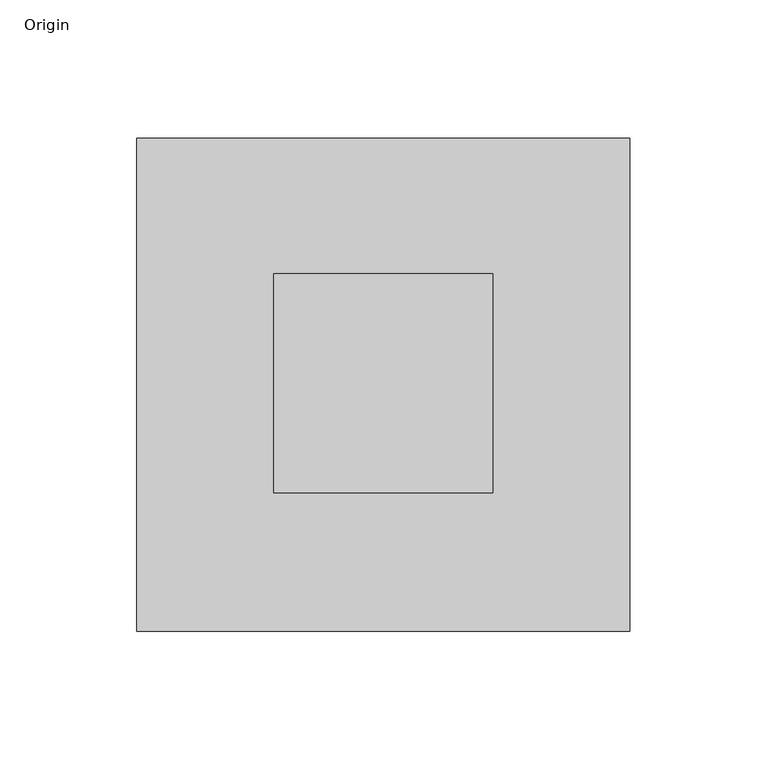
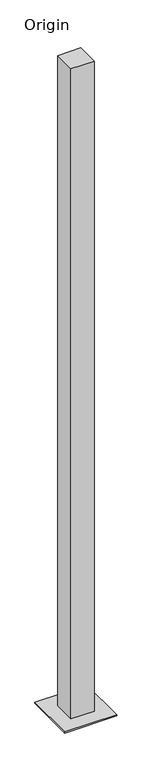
"""IFC4 building model written with IfcOpenShell, lengths in millimetres: proxy geometry, Post_Akva : Origin."""

from ifc_helpers import new_model, si_unit, frame, origin, place, context, project, spatial, polyline, outline, extrude, source, transform, mapped, element, save


def origin_3b7e57de(model_context):
    return source(origin(), model_context, "Body", "SweptSolid", [
        extrude(outline(polyline([(40.0, 40.0), (40.0, -40.0), (-40.0, -40.0), (-40.0, 40.0), (40.0, 40.0)])), frame((0.0, 0.0, -200.0), z_axis=(0.0, 0.0, 1.0), x_axis=(1.0, 0.0, 0.0)), (0.0, 0.0, 1.0), 2382.0),
        extrude(outline(polyline([(90.0, -90.0), (-90.0, -90.0), (-90.0, 90.0), (90.0, 90.0), (90.0, -90.0)])), frame((0.0, 0.0, -204.0), z_axis=(0.0, 0.0, 1.0), x_axis=(1.0, 0.0, 0.0)), (0.0, 0.0, 1.0), 4.0),
    ])


if __name__ == "__main__":
    model = new_model("IFC4")
    model_context = context("Model", 3, world=origin())
    ifc_project = project(units=[si_unit("LENGTHUNIT", "METRE", prefix="MILLI")], contexts=[model_context])
    site = spatial("IfcSite", under=ifc_project)
    building = spatial("IfcBuilding", under=site)
    placement = place(None, origin())
    ifc_origin_shape = origin_3b7e57de(model_context)
    element("IfcBuildingElementProxy", 1, Name="Post_Akva : Origin", ObjectType="Post_Akva : Origin", at=placement, inside=building, context=model_context, shape_type="MappedRepresentation", body=[
        mapped(ifc_origin_shape, transform((0.0, 0.0, 0.0), x_axis=(1.0, 0.0, 0.0), y_axis=(0.0, 1.0, 0.0), z_axis=(0.0, 0.0, 1.0))),
    ])
    save(model, "model.ifc")
